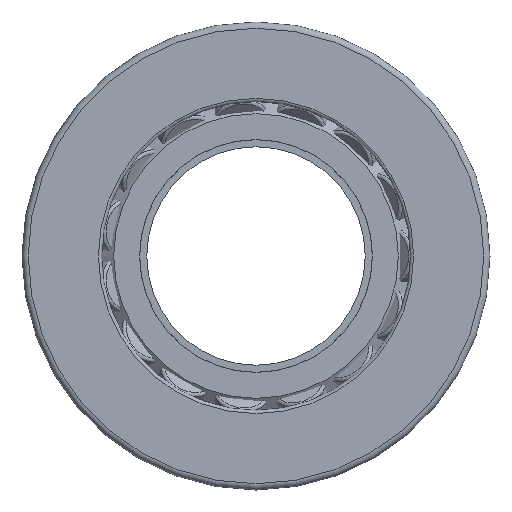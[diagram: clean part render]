
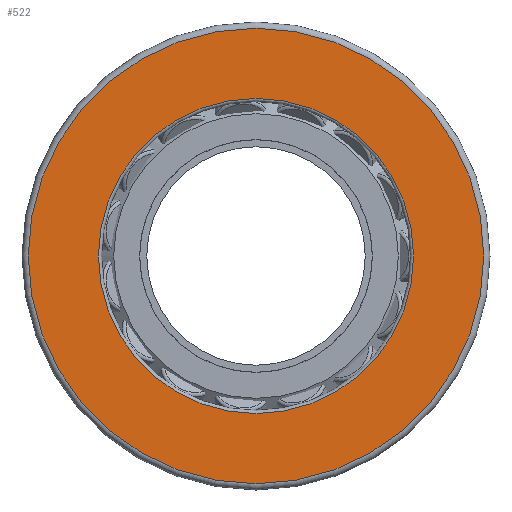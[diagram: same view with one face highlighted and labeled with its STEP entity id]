
A CAD part, front view. The second image highlights one B-rep face of the part: STEP entity #522.
In plain terms, the highlighted planar face has unit normal (0, -1, 0).
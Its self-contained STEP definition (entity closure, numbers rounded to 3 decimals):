
#111=PLANE('',#572);
#135=FACE_BOUND('',#210,.T.);
#167=FACE_OUTER_BOUND('',#209,.T.);
#209=EDGE_LOOP('',(#419));
#210=EDGE_LOOP('',(#420));
#276=CIRCLE('',#570,50.5);
#278=CIRCLE('',#573,73.);
#321=VERTEX_POINT('',#881);
#323=VERTEX_POINT('',#886);
#366=EDGE_CURVE('',#321,#321,#276,.T.);
#368=EDGE_CURVE('',#323,#323,#278,.T.);
#419=ORIENTED_EDGE('',*,*,#368,.F.);
#420=ORIENTED_EDGE('',*,*,#366,.F.);
#522=ADVANCED_FACE('',(#167,#135),#111,.T.);
#570=AXIS2_PLACEMENT_3D('',#882,#682,#683);
#572=AXIS2_PLACEMENT_3D('',#885,#686,#687);
#573=AXIS2_PLACEMENT_3D('',#887,#688,#689);
#682=DIRECTION('center_axis',(0.,-1.,0.));
#683=DIRECTION('ref_axis',(-1.,0.,0.));
#686=DIRECTION('center_axis',(0.,-1.,0.));
#687=DIRECTION('ref_axis',(0.,0.,-1.));
#688=DIRECTION('center_axis',(0.,1.,0.));
#689=DIRECTION('ref_axis',(-1.,0.,0.));
#881=CARTESIAN_POINT('',(50.5,-24.,0.));
#882=CARTESIAN_POINT('Origin',(0.,-24.,0.));
#885=CARTESIAN_POINT('Origin',(49.5,-24.,0.));
#886=CARTESIAN_POINT('',(73.,-24.,0.));
#887=CARTESIAN_POINT('Origin',(0.,-24.,0.));
